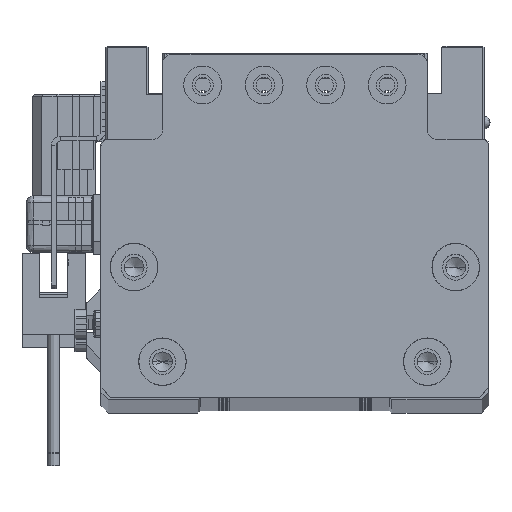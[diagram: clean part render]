
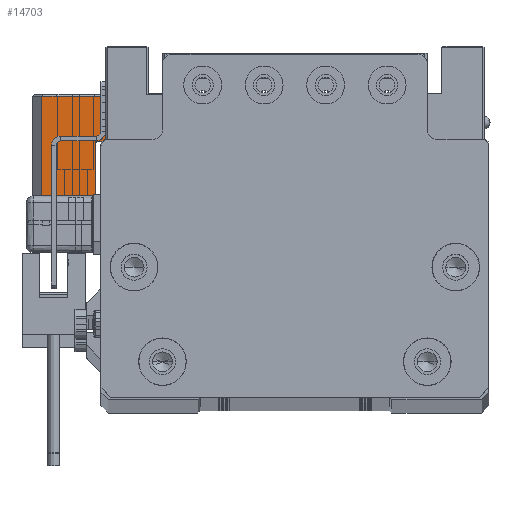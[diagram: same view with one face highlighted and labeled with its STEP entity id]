
A CAD part, top view. The second image highlights one B-rep face of the part: STEP entity #14703.
In plain terms, the highlighted planar face has unit normal (0, 0, 1) as drawn and (1, 0, 0) by its records, which use the part's own axes.
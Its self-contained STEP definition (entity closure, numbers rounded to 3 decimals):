
#39 = EDGE_LOOP ( 'NONE', ( #22222, #61727, #8252, #48791, #49974, #46472 ) ) ;
#8252 = ORIENTED_EDGE ( 'NONE', *, *, #27066, .T. ) ;
#13102 = DIRECTION ( 'NONE',  ( 0., -1., 0. ) ) ;
#14703 = ADVANCED_FACE ( 'NONE', ( #64271 ), #33312, .T. ) ;
#17093 = CARTESIAN_POINT ( 'NONE',  ( 17., 0.75, -15.5 ) ) ;
#18024 = DIRECTION ( 'NONE',  ( 1., 0., 0. ) ) ;
#18189 = VERTEX_POINT ( 'NONE', #21411 ) ;
#18355 = VERTEX_POINT ( 'NONE', #63585 ) ;
#20283 = LINE ( 'NONE', #31154, #24690 ) ;
#21411 = CARTESIAN_POINT ( 'NONE',  ( 17., 10.25, -15.5 ) ) ;
#22165 = LINE ( 'NONE', #17093, #38559 ) ;
#22222 = ORIENTED_EDGE ( 'NONE', *, *, #52965, .T. ) ;
#23742 = VECTOR ( 'NONE', #13102, 1000. ) ;
#24690 = VECTOR ( 'NONE', #56354, 1000. ) ;
#27066 = EDGE_CURVE ( 'NONE', #44966, #18355, #45300, .T. ) ;
#31154 = CARTESIAN_POINT ( 'NONE',  ( 17., 10.25, -15.5 ) ) ;
#33312 = PLANE ( 'NONE',  #43187 ) ;
#35393 = EDGE_CURVE ( 'NONE', #39905, #18355, #57789, .T. ) ;
#36701 = CARTESIAN_POINT ( 'NONE',  ( 17., -10.75, -15.5 ) ) ;
#37476 = DIRECTION ( 'NONE',  ( 0., 0., 1. ) ) ;
#37975 = DIRECTION ( 'NONE',  ( 0., 1., 0. ) ) ;
#38304 = LINE ( 'NONE', #48178, #45686 ) ;
#38559 = VECTOR ( 'NONE', #37476, 1000. ) ;
#39905 = VERTEX_POINT ( 'NONE', #40273 ) ;
#40204 = DIRECTION ( 'NONE',  ( 0., -1., 0. ) ) ;
#40273 = CARTESIAN_POINT ( 'NONE',  ( 17., -10.75, -13.3 ) ) ;
#40869 = CARTESIAN_POINT ( 'NONE',  ( 17., 0.75, -13.3 ) ) ;
#43187 = AXIS2_PLACEMENT_3D ( 'NONE', #54070, #18024, #48639 ) ;
#43814 = CARTESIAN_POINT ( 'NONE',  ( 17., 0.75, -15.5 ) ) ;
#43874 = VECTOR ( 'NONE', #52356, 1000. ) ;
#44966 = VERTEX_POINT ( 'NONE', #61849 ) ;
#45115 = VECTOR ( 'NONE', #40204, 1000. ) ;
#45300 = LINE ( 'NONE', #66052, #45115 ) ;
#45654 = EDGE_CURVE ( 'NONE', #66180, #65512, #22165, .T. ) ;
#45686 = VECTOR ( 'NONE', #37975, 1000. ) ;
#46472 = ORIENTED_EDGE ( 'NONE', *, *, #45654, .F. ) ;
#48086 = EDGE_CURVE ( 'NONE', #18189, #44966, #20283, .T. ) ;
#48178 = CARTESIAN_POINT ( 'NONE',  ( 17., -10.75, -15.5 ) ) ;
#48639 = DIRECTION ( 'NONE',  ( 0., 0., -1. ) ) ;
#48791 = ORIENTED_EDGE ( 'NONE', *, *, #35393, .F. ) ;
#49974 = ORIENTED_EDGE ( 'NONE', *, *, #60886, .F. ) ;
#52356 = DIRECTION ( 'NONE',  ( 0., 0., 1. ) ) ;
#52965 = EDGE_CURVE ( 'NONE', #66180, #18189, #38304, .T. ) ;
#54070 = CARTESIAN_POINT ( 'NONE',  ( 17., -10.75, -15.5 ) ) ;
#56354 = DIRECTION ( 'NONE',  ( 0., 0., 1. ) ) ;
#57789 = LINE ( 'NONE', #36701, #43874 ) ;
#59693 = LINE ( 'NONE', #64766, #23742 ) ;
#60886 = EDGE_CURVE ( 'NONE', #65512, #39905, #59693, .T. ) ;
#61727 = ORIENTED_EDGE ( 'NONE', *, *, #48086, .T. ) ;
#61849 = CARTESIAN_POINT ( 'NONE',  ( 17., 10.25, -2. ) ) ;
#63585 = CARTESIAN_POINT ( 'NONE',  ( 17., -10.75, -2. ) ) ;
#64271 = FACE_OUTER_BOUND ( 'NONE', #39, .T. ) ;
#64766 = CARTESIAN_POINT ( 'NONE',  ( 17., -10.75, -13.3 ) ) ;
#65512 = VERTEX_POINT ( 'NONE', #40869 ) ;
#66052 = CARTESIAN_POINT ( 'NONE',  ( 17., -10.75, -2. ) ) ;
#66180 = VERTEX_POINT ( 'NONE', #43814 ) ;
